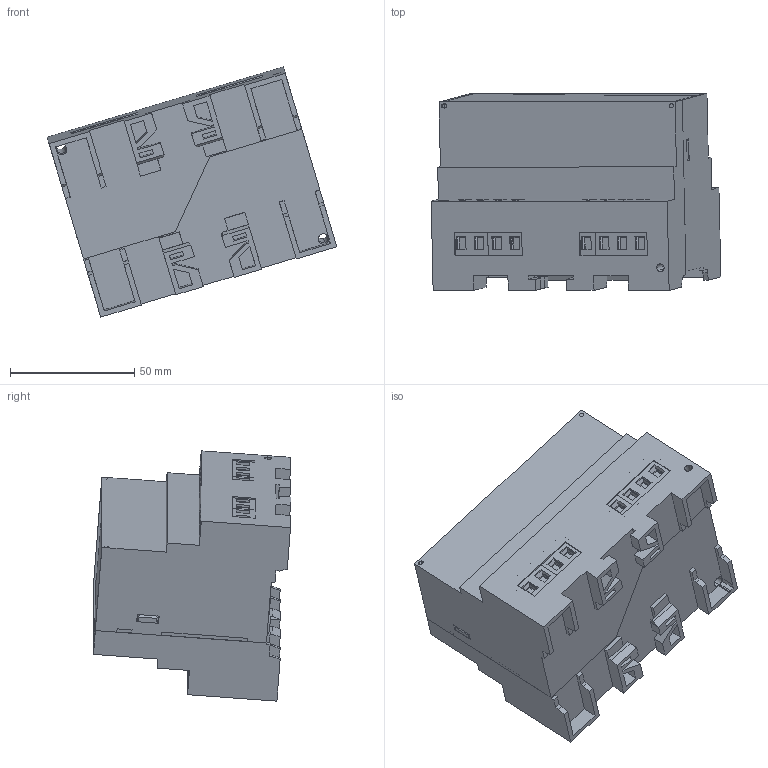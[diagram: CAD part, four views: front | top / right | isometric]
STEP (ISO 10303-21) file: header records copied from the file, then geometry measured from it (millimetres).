
FILE_DESCRIPTION (( 'STEP AP214' ), '1' );
FILE_NAME ('107TD47.STEP', '2012-08-06T13:23:07', ( 'User' ), ( 'Bender' ), 'SwSTEP 2.0', 'SolidWorks 2012', '' );
FILE_SCHEMA (( 'AUTOMOTIVE_DESIGN' ));
Length unit declared in the file: millimetre
Products named in the file (8): Plombierabdeckung; AK7103 Ovalpad; 107TD47; AK7102 Ovalpad; Bender-Logo neu 47; l98307; XM 470 Gehäusehalbschale_XM 470 ( Ohne Wandlerloch )
Assembly tree (15 placements, depth 3):
  107TD47
    l98307
      l98307
      AK7102 Ovalpad  x2
      AK7103 Ovalpad  x6
      Bender-Logo neu 47  x2
    XM 470 Gehäusehalbschale_XM 470 ( Ohne Wandlerloch )  x2
    Plombierabdeckung
Bounding box: 116.43 x 79.23 x 100.62 mm (x, y, z)
Volume: 110072 mm3; surface area: 108096.3 mm2
Topology: 18 solids, 18 shells, 1624 faces, 4294 edges, 2806 vertices
Faces by surface type: plane 1358, cylinder 260, cone 6
Entity records: 19866 total; most frequent: CARTESIAN_POINT 3344, ORIENTED_EDGE 3232, DIRECTION 3075, EDGE_CURVE 1616, LINE 1359, VECTOR 1359, VERTEX_POINT 1061, AXIS2_PLACEMENT_3D 858
